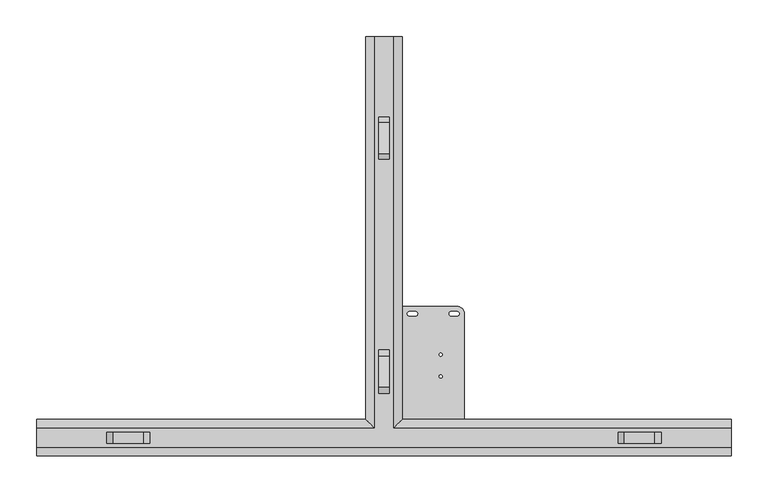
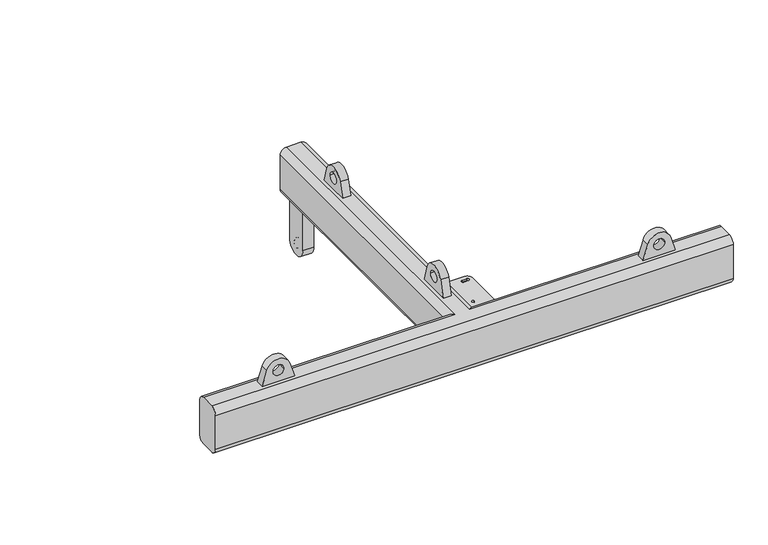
"""IFC4 building model written with IfcOpenShell, lengths in millimetres: proxy geometry, d&b SL-Series KSLi TOP Mounting Frame : KSLi TOP Mounting Frame."""

import ifcopenshell
import ifcopenshell.guid

model = None  # the IFC model being written
_history = None  # IfcOwnerHistory: only IFC2X3 demands one
_inside = {}  # id of a spatial element -> (the spatial element, [elements in it])
_under = {}  # id of a project, library or spatial element -> (it, [spatial elements below it])
_declared = {}  # id of a project -> (the project, [libraries it declares])
_typed = {}  # id of a type object -> (the type object, [elements of that type])
_made_of = {}  # id of a material, layer set ... -> (it, [elements and type objects made of it])


def new_model(schema):
    """Start an empty IFC model of exactly this schema.

    Asked for "IFC4X3", IfcOpenShell would pick the latest addendum, in which some entities
    have other attributes; the version numbers below select the first issue.
    IFC2X3 requires an IfcOwnerHistory on every rooted entity: one is made here for all.
    """
    global model, _history
    if schema == "IFC4X3":
        model = ifcopenshell.file(schema_version=(4, 3, 0, 0))
    else:
        model = ifcopenshell.file(schema=schema)
    _inside.clear()
    _under.clear()
    _declared.clear()
    _typed.clear()
    _made_of.clear()
    _history = None
    if model.schema == "IFC2X3":
        org = make("IfcOrganization", Name="unknown")
        user = make(
            "IfcPersonAndOrganization",
            ThePerson=make("IfcPerson", FamilyName="unknown"),
            TheOrganization=org,
        )
        app = make(
            "IfcApplication",
            ApplicationDeveloper=org,
            Version="unknown",
            ApplicationFullName="unknown",
            ApplicationIdentifier="unknown",
        )
        _history = make(
            "IfcOwnerHistory",
            OwningUser=user,
            OwningApplication=app,
            ChangeAction="ADDED",
            CreationDate=0,
        )
    return model


def make(cls, **values):
    """One entity of the class cls with the attributes given. An attribute that is None is left unset."""
    return model.create_entity(
        cls, **{name: value for name, value in values.items() if value is not None}
    )


def rooted(cls, **values):
    """An entity with a GlobalId (a new one), such as an element, a storey or a relation."""
    return make(cls, GlobalId=ifcopenshell.guid.new(), OwnerHistory=_history, **values)


def si_unit(unit_type, name, prefix=None):
    """IfcSIUnit, for example si_unit("LENGTHUNIT", "METRE", prefix="MILLI")."""
    return make("IfcSIUnit", UnitType=unit_type, Prefix=prefix, Name=name)


def assignment(units):
    """IfcUnitAssignment: the units of a project."""
    return None if units is None else make("IfcUnitAssignment", Units=units)


def point(xyz):
    """IfcCartesianPoint."""
    return None if xyz is None else make("IfcCartesianPoint", Coordinates=xyz)


def direction(xyz):
    """IfcDirection."""
    return None if xyz is None else make("IfcDirection", DirectionRatios=xyz)


def frame(location, z_axis=None, x_axis=None):
    """IfcAxis2Placement3D, a coordinate frame: its origin and axes. An axis left out is left unset."""
    return make(
        "IfcAxis2Placement3D",
        Location=point(location),
        Axis=direction(z_axis),
        RefDirection=direction(x_axis),
    )


def frame_2d(location, x_axis=None):
    """IfcAxis2Placement2D, a coordinate frame in the plane: its origin and x axis."""
    return make(
        "IfcAxis2Placement2D", Location=point(location), RefDirection=direction(x_axis)
    )


def origin():
    """The frame at (0, 0, 0) with its axes left unset."""
    return frame((0.0, 0.0, 0.0))


def place(relative_to, where):
    """IfcLocalPlacement: puts the frame where relative to a parent placement (None: the world)."""
    return make(
        "IfcLocalPlacement", PlacementRelTo=relative_to, RelativePlacement=where
    )


def context(
    kind, dimensions, precision=None, world=None, true_north=None, identifier=None
):
    """IfcGeometricRepresentationContext, for example the 3D "Model" context."""
    return make(
        "IfcGeometricRepresentationContext",
        ContextIdentifier=identifier,
        ContextType=kind,
        CoordinateSpaceDimension=dimensions,
        Precision=precision,
        WorldCoordinateSystem=world,
        TrueNorth=true_north,
    )


def project(units=None, contexts=None):
    """IfcProject with its units and contexts."""
    return rooted(
        "IfcProject",
        Name="project",
        RepresentationContexts=contexts,
        UnitsInContext=assignment(units),
    )


def spatial(cls, under=None, at=None, **own):
    """A site, building, storey or space (cls), placed at a placement, below another one or the project."""
    s = rooted(cls, ObjectPlacement=at, **own)
    if under is not None:
        _under.setdefault(under.id(), (under, []))[1].append(s)
    return s


def polyline(points):
    """IfcPolyline through the points."""
    return make("IfcPolyline", Points=[point(p) for p in points])


def circle_curve(where, radius):
    """IfcCircle in the frame where."""
    return make("IfcCircle", Position=where, Radius=radius)


def ellipse_curve(where, semi_axis1, semi_axis2):
    """IfcEllipse in the frame where."""
    return make(
        "IfcEllipse", Position=where, SemiAxis1=semi_axis1, SemiAxis2=semi_axis2
    )


def trimmed(basis, trim1, trim2, sense, master):
    """IfcTrimmedCurve: the piece of a basis curve between two trims."""
    return make(
        "IfcTrimmedCurve",
        BasisCurve=basis,
        Trim1=trim1,
        Trim2=trim2,
        SenseAgreement=sense,
        MasterRepresentation=master,
    )


def segment(curve, same_sense, transition):
    """IfcCompositeCurveSegment."""
    return make(
        "IfcCompositeCurveSegment",
        Transition=transition,
        SameSense=same_sense,
        ParentCurve=curve,
    )


def composite_curve(segments, self_intersect=None):
    """IfcCompositeCurve: segments joined end to end."""
    return make("IfcCompositeCurve", Segments=segments, SelfIntersect=self_intersect)


def outline(outer, holes=None, kind="AREA"):
    """IfcArbitraryClosedProfileDef: a profile drawn as a closed curve; with holes, ...WithVoids."""
    if holes is None:
        return make("IfcArbitraryClosedProfileDef", ProfileType=kind, OuterCurve=outer)
    return make(
        "IfcArbitraryProfileDefWithVoids",
        ProfileType=kind,
        OuterCurve=outer,
        InnerCurves=holes,
    )


def extrude(swept, where, along, depth):
    """IfcExtrudedAreaSolid: the profile swept, set in the frame where, extruded along a direction by depth."""
    return make(
        "IfcExtrudedAreaSolid",
        SweptArea=swept,
        Position=where,
        ExtrudedDirection=direction(along),
        Depth=depth,
    )


def shape(context_of_items, identifier, shape_type, items):
    """IfcShapeRepresentation: the items that make up one representation, for example the "Body"."""
    return make(
        "IfcShapeRepresentation",
        ContextOfItems=context_of_items,
        RepresentationIdentifier=identifier,
        RepresentationType=shape_type,
        Items=items,
    )


def source(mapping_origin, context_of_items, identifier, shape_type, items):
    """IfcRepresentationMap: a shape defined once, which mapped items show again and again."""
    return make(
        "IfcRepresentationMap",
        MappingOrigin=mapping_origin,
        MappedRepresentation=shape(context_of_items, identifier, shape_type, items),
    )


def transform(
    local_origin,
    x_axis=None,
    y_axis=None,
    z_axis=None,
    scale=None,
    scale2=None,
    scale3=None,
    uniform=True,
):
    """IfcCartesianTransformationOperator3D, or its non-uniform kind. x_axis, y_axis, z_axis: its Axis1, 2, 3."""
    if uniform:
        return make(
            "IfcCartesianTransformationOperator3D",
            Axis1=direction(x_axis),
            Axis2=direction(y_axis),
            LocalOrigin=point(local_origin),
            Scale=scale,
            Axis3=direction(z_axis),
        )
    return make(
        "IfcCartesianTransformationOperator3DnonUniform",
        Axis1=direction(x_axis),
        Axis2=direction(y_axis),
        LocalOrigin=point(local_origin),
        Scale=scale,
        Axis3=direction(z_axis),
        Scale2=scale2,
        Scale3=scale3,
    )


def mapped(mapping_source, mapping_target):
    """IfcMappedItem: shows the shape of a source again, moved by a transform."""
    return make(
        "IfcMappedItem", MappingSource=mapping_source, MappingTarget=mapping_target
    )


def made_of(thing, what):
    """Note that an element or type object is made of a material, layer set ...; save() writes the relation."""
    if what is not None:
        _made_of.setdefault(what.id(), (what, []))[1].append(thing)
    return thing


def element(
    cls,
    number,
    at=None,
    inside=None,
    cuts=None,
    type_object=None,
    material=None,
    context=None,
    identifier="Body",
    shape_type=None,
    held_by="IfcProductDefinitionShape",
    body=None,
    shapes=None,
    **own,
):
    """One element of the class cls, such as IfcWall. Its Tag is "e" and its number.

    at: its placement. inside: the storey or other place that contains it. cuts: it is an
    opening in that element (IfcRelVoidsElement). A single representation is given by context,
    identifier, shape_type and body (its items); several are given by shapes. held_by: the class
    of the entity that holds the representations. save() writes the other relations.
    """
    e = rooted(cls, Tag="e%d" % number, ObjectPlacement=at, **own)
    if body is not None:
        shapes = [shape(context, identifier, shape_type, body)]
    if shapes is not None:
        e.Representation = make(held_by, Representations=shapes)
    if inside is not None:
        _inside.setdefault(inside.id(), (inside, []))[1].append(e)
    if cuts is not None:
        rooted(
            "IfcRelVoidsElement", RelatingBuildingElement=cuts, RelatedOpeningElement=e
        )
    if type_object is not None:
        _typed.setdefault(type_object.id(), (type_object, []))[1].append(e)
    return made_of(e, material)


def aggregate(whole, parts):
    """IfcRelAggregates: a whole, such as a stair, and the parts it consists of."""
    return rooted("IfcRelAggregates", RelatingObject=whole, RelatedObjects=parts)


def save(model, path):
    """Write the relations noted so far, then the file.

    IfcRelAggregates (storeys below a building ...), IfcRelContainedInSpatialStructure (elements
    in a storey), IfcRelDefinesByType, IfcRelAssociatesMaterial and IfcRelDeclares: one each for
    every whole, place, type object, material and project.
    """
    for whole, parts in _under.values():
        aggregate(whole, parts)
    for where, things in _inside.values():
        rooted(
            "IfcRelContainedInSpatialStructure",
            RelatedElements=things,
            RelatingStructure=where,
        )
    for kind, things in _typed.values():
        rooted("IfcRelDefinesByType", RelatedObjects=things, RelatingType=kind)
    for what, things in _made_of.values():
        rooted("IfcRelAssociatesMaterial", RelatedObjects=things, RelatingMaterial=what)
    for by, libraries in _declared.values():
        rooted("IfcRelDeclares", RelatingContext=by, RelatedDefinitions=libraries)
    model.write(path)


def plane_surface(at):
    """IfcPlane: the flat surface through the origin of the frame at, square to its z axis."""
    return make("IfcPlane", Position=at)


def cylinder_surface(at, radius):
    """IfcCylindricalSurface: all points at the distance radius from the z axis of the frame at."""
    return make("IfcCylindricalSurface", Position=at, Radius=radius)


def advanced_brep(points, edges, surfaces, faces):
    """IfcAdvancedBrep: a solid bounded by faces that lie on surfaces and meet in shared edges.

    An edge is (start, end): straight between two places in points (the first is 0);
    or (start, end, curve); or (start, end, curve, False) where it runs against its curve.
    A face is (place in surfaces, loops), or (place, loops, False) where it looks against
    its surface's normal. A loop lists edges by number (the first is 1), with a minus sign
    where the edge is run from its end to its start. The first loop is the outer one.
    """
    corners = [point(p) for p in points]
    vertices = [make("IfcVertexPoint", VertexGeometry=c) for c in corners]
    made = []
    for start, end, *more in edges:
        made.append(
            make(
                "IfcEdgeCurve",
                EdgeStart=vertices[start],
                EdgeEnd=vertices[end],
                EdgeGeometry=more[0] if more else make("IfcPolyline", Points=[corners[start], corners[end]]),
                SameSense=more[1] if len(more) > 1 else True,
            )
        )
    hull = []
    for where, loops, *sense in faces:
        bounds = []
        for j, loop in enumerate(loops):
            ring = [make("IfcOrientedEdge", EdgeElement=made[abs(k) - 1], Orientation=k > 0) for k in loop]
            bounds.append(
                make(
                    "IfcFaceOuterBound" if j == 0 else "IfcFaceBound",
                    Bound=make("IfcEdgeLoop", EdgeList=ring),
                    Orientation=True,
                )
            )
        hull.append(make("IfcAdvancedFace", Bounds=bounds, FaceSurface=surfaces[where], SameSense=sense[0] if sense else True))
    return make("IfcAdvancedBrep", Outer=make("IfcClosedShell", CfsFaces=hull))


def communication_devices_52280cd8(model_context):
    return source(origin(), model_context, "Body", "SolidModel", [
        advanced_brep(
        [(475.75, -2.8125, 9.0), (475.75, 9.1875, -3.0), (475.75, 35.1875, -3.0), (475.75, 47.1875, 9.0), (475.75, 47.1875, 75.0), (475.75, 35.1875, 87.0), (475.75, 9.1875, 87.0), (475.75, -2.8125, 75.0), (-475.75, -2.8125, 9.0), (-475.75, -2.8125, 75.0), (-475.75, 9.1875, 87.0), (-475.75, 35.1875, 87.0), (-475.75, 47.1875, 75.0), (-475.75, 47.1875, 9.0), (-475.75, 35.1875, -3.0), (-475.75, 9.1875, -3.0), (-13.0, 35.1875, -3.0), (-13.0, 572.1875, -3.0), (13.0, 572.1875, -3.0), (13.0, 35.1875, -3.0), (25.0, 47.1875, 9.0), (25.0, 47.1875, 75.0), (-25.0, 47.1875, 75.0), (-25.0, 47.1875, 9.0), (13.0, 35.1875, 87.0), (13.0, 572.1875, 87.0), (-13.0, 572.1875, 87.0), (-13.0, 35.1875, 87.0), (-25.0, 572.1875, 9.0), (-25.0, 572.1875, 75.0), (25.0, 572.1875, 75.0), (25.0, 572.1875, 9.0)],
        [
            (0, 1, circle_curve(frame((475.75, 9.1875, 9.0), z_axis=(1.0, 0.0, 0.0), x_axis=(0.0, -1.0, 0.0)), 12.0)),
            (1, 2),
            (2, 3, circle_curve(frame((475.75, 35.1875, 9.0), z_axis=(1.0, 0.0, 0.0), x_axis=(0.0, -1.0, 0.0)), 12.0)),
            (3, 4),
            (4, 5, circle_curve(frame((475.75, 35.1875, 75.0), z_axis=(1.0, 0.0, 0.0), x_axis=(0.0, -1.0, 0.0)), 12.0)),
            (5, 6),
            (6, 7, circle_curve(frame((475.75, 9.1875, 75.0), z_axis=(1.0, 0.0, 0.0), x_axis=(0.0, -1.0, 0.0)), 12.0)),
            (7, 0),
            (8, 9),
            (9, 10, circle_curve(frame((-475.75, 9.1875, 75.0), z_axis=(-1.0, 0.0, 0.0), x_axis=(0.0, -1.0, 0.0)), 12.0)),
            (10, 11),
            (11, 12, circle_curve(frame((-475.75, 35.1875, 75.0), z_axis=(-1.0, 0.0, 0.0), x_axis=(0.0, -1.0, 0.0)), 12.0)),
            (12, 13),
            (13, 14, circle_curve(frame((-475.75, 35.1875, 9.0), z_axis=(-1.0, 0.0, 0.0), x_axis=(0.0, -1.0, 0.0)), 12.0)),
            (14, 15),
            (15, 8, circle_curve(frame((-475.75, 9.1875, 9.0), z_axis=(-1.0, 0.0, 0.0), x_axis=(0.0, -1.0, 0.0)), 12.0)),
            (1, 15),
            (14, 16),
            (16, 17),
            (17, 18),
            (18, 19),
            (19, 2),
            (3, 20),
            (20, 21),
            (21, 4),
            (12, 22),
            (22, 23),
            (23, 13),
            (5, 24),
            (24, 25),
            (25, 26),
            (26, 27),
            (27, 11),
            (10, 6),
            (7, 9),
            (8, 0),
            (19, 20, ellipse_curve(frame((13.0, 35.1875, 9.0), z_axis=(0.7071067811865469, -0.7071067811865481, 0.0), x_axis=(0.7071067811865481, 0.7071067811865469, 0.0)), 16.9705627, 12.0)),
            (23, 16, ellipse_curve(frame((-13.0, 35.1875, 9.0), z_axis=(-0.7071067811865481, -0.7071067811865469, 0.0), x_axis=(0.7071067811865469, -0.7071067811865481, 0.0)), 16.9705627, 12.0)),
            (21, 24, ellipse_curve(frame((13.0, 35.1875, 75.0), z_axis=(0.7071067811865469, -0.7071067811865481, 0.0), x_axis=(0.7071067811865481, 0.7071067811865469, 0.0)), 16.9705627, 12.0)),
            (27, 22, ellipse_curve(frame((-13.0, 35.1875, 75.0), z_axis=(-0.7071067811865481, -0.7071067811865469, 0.0), x_axis=(0.7071067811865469, -0.7071067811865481, 0.0)), 16.9705627, 12.0)),
            (28, 29),
            (29, 26, circle_curve(frame((-13.0, 572.1875, 75.0), z_axis=(0.0, 1.0, 0.0), x_axis=(1.0, 0.0, 0.0)), 12.0)),
            (25, 30, circle_curve(frame((13.0, 572.1875, 75.0), z_axis=(0.0, 1.0, 0.0), x_axis=(1.0, 0.0, 0.0)), 12.0)),
            (30, 31),
            (31, 18, circle_curve(frame((13.0, 572.1875, 9.0), z_axis=(0.0, 1.0, 0.0), x_axis=(1.0, 0.0, 0.0)), 12.0)),
            (17, 28, circle_curve(frame((-13.0, 572.1875, 9.0), z_axis=(0.0, 1.0, 0.0), x_axis=(1.0, 0.0, 0.0)), 12.0)),
            (30, 21),
            (20, 31),
            (28, 23),
            (22, 29),
        ],
        [
            plane_surface(frame((475.75, -2.8125, 9.0), z_axis=(1.0, 0.0, 0.0), x_axis=(0.0, 0.0, -1.0))),
            plane_surface(frame((-475.75, -2.8125, 9.0), z_axis=(-1.0, 0.0, 0.0), x_axis=(0.0, 0.0, 1.0))),
            plane_surface(frame((475.75, 9.1875, -3.0), z_axis=(0.0, 0.0, -1.0), x_axis=(-1.0, 0.0, 0.0))),
            plane_surface(frame((475.75, 47.1875, 9.0), z_axis=(0.0, 1.0, 0.0), x_axis=(-1.0, 0.0, 0.0))),
            plane_surface(frame((475.75, 35.1875, 87.0), z_axis=(0.0, 0.0, 1.0), x_axis=(-1.0, 0.0, 0.0))),
            plane_surface(frame((475.75, -2.8125, 75.0), z_axis=(0.0, -1.0, 0.0), x_axis=(-1.0, 0.0, 0.0))),
            cylinder_surface(frame((-475.75, 9.1875, 9.0), z_axis=(1.0, 0.0, 0.0), x_axis=(0.0, -1.0, 0.0)), 12.0),
            cylinder_surface(frame((-475.75, 35.1875, 9.0), z_axis=(1.0, 0.0, 0.0), x_axis=(0.0, -1.0, 0.0)), 12.0),
            cylinder_surface(frame((-475.75, 35.1875, 75.0), z_axis=(1.0, 0.0, 0.0), x_axis=(0.0, -1.0, 0.0)), 12.0),
            cylinder_surface(frame((-475.75, 9.1875, 75.0), z_axis=(1.0, 0.0, 0.0), x_axis=(0.0, -1.0, 0.0)), 12.0),
            plane_surface(frame((-1.0, 572.1875, 9.0), z_axis=(0.0, 1.0, 0.0), x_axis=(0.0, 0.0, -1.0))),
            plane_surface(frame((25.0, 29.6875, 9.0), z_axis=(1.0, 0.0, 0.0), x_axis=(0.0, 1.0, 0.0))),
            plane_surface(frame((-25.0, 29.6875, 75.0), z_axis=(-1.0, 0.0, 0.0), x_axis=(0.0, 1.0, 0.0))),
            cylinder_surface(frame((-13.0, 572.1875, 9.0), z_axis=(0.0, -1.0, 0.0), x_axis=(1.0, 0.0, 0.0)), 12.0),
            cylinder_surface(frame((13.0, 572.1875, 9.0), z_axis=(0.0, -1.0, 0.0), x_axis=(1.0, 0.0, 0.0)), 12.0),
            cylinder_surface(frame((13.0, 572.1875, 75.0), z_axis=(0.0, -1.0, 0.0), x_axis=(1.0, 0.0, 0.0)), 12.0),
            cylinder_surface(frame((-13.0, 572.1875, 75.0), z_axis=(0.0, -1.0, 0.0), x_axis=(1.0, 0.0, 0.0)), 12.0),
        ],
        [
            (0, [[1, 2, 3, 4, 5, 6, 7, 8]]),
            (1, [[9, 10, 11, 12, 13, 14, 15, 16]]),
            (2, [[-2, 17, -15, 18, 19, 20, 21, 22]]),
            (3, [[-4, 23, 24, 25]]),
            (3, [[-13, 26, 27, 28]]),
            (4, [[-6, 29, 30, 31, 32, 33, -11, 34]]),
            (5, [[-8, 35, -9, 36]]),
            (6, [[-1, -36, -16, -17]]),
            (7, [[-3, -22, 37, -23]]),
            (7, [[-14, -28, 38, -18]]),
            (8, [[-5, -25, 39, -29]]),
            (8, [[-12, -33, 40, -26]]),
            (9, [[-7, -34, -10, -35]]),
            (10, [[41, 42, -31, 43, 44, 45, -20, 46]]),
            (11, [[-44, 47, -24, 48]]),
            (12, [[-41, 49, -27, 50]]),
            (13, [[-46, -19, -38, -49]]),
            (14, [[-45, -48, -37, -21]]),
            (15, [[-43, -30, -39, -47]]),
            (16, [[-42, -50, -40, -32]]),
        ],
    ),
        extrude(outline(composite_curve([segment(polyline([(110.0, 192.1875), (110.0, 47.1875), (25.0, 47.1875), (25.0, 202.1875), (100.0, 202.1875)]), True, "CONTINUOUS"), segment(trimmed(circle_curve(frame_2d((100.0, 192.1875)), 10.0), [point((100.0, 202.1875))], [point((110.0, 192.1875))], False, "CARTESIAN"), True, "CONTINUOUS")], self_intersect=False), holes=[composite_curve([segment(trimmed(circle_curve(frame_2d((92.0, 192.1875)), 3.0), [point((92.0, 195.1875))], [point((92.0, 189.1875))], True, "CARTESIAN"), True, "CONTINUOUS"), segment(polyline([(92.0, 189.1875), (100.0, 189.1875)]), True, "CONTINUOUS"), segment(trimmed(circle_curve(frame_2d((100.0, 192.1875)), 3.0), [point((100.0, 189.1875))], [point((100.0, 195.1875))], True, "CARTESIAN"), True, "CONTINUOUS"), segment(polyline([(100.0, 195.1875), (92.0, 195.1875)]), True, "CONTINUOUS")], self_intersect=False), composite_curve([segment(trimmed(circle_curve(frame_2d((35.0, 192.1875)), 3.0), [point((35.0, 195.1875))], [point((35.0, 189.1875))], True, "CARTESIAN"), True, "CONTINUOUS"), segment(polyline([(35.0, 189.1875), (43.0, 189.1875)]), True, "CONTINUOUS"), segment(trimmed(circle_curve(frame_2d((43.0, 192.1875)), 3.0), [point((43.0, 189.1875))], [point((43.0, 195.1875))], True, "CARTESIAN"), True, "CONTINUOUS"), segment(polyline([(43.0, 195.1875), (35.0, 195.1875)]), True, "CONTINUOUS")], self_intersect=False), composite_curve([segment(trimmed(circle_curve(frame_2d((77.5620806, 136.1792132)), 2.1161299), [point((75.4459507, 136.1792132))], [point((79.6782105, 136.1792132))], True, "CARTESIAN"), True, "CONTINUOUS"), segment(trimmed(circle_curve(frame_2d((77.5620806, 136.1792132)), 2.1161299), [point((79.6782105, 136.1792132))], [point((75.4459507, 136.1792132))], True, "CARTESIAN"), True, "CONTINUOUS")], self_intersect=False), composite_curve([segment(trimmed(circle_curve(frame_2d((77.5620806, 106.1792132)), 2.1161299), [point((75.4459507, 106.1792132))], [point((79.6782105, 106.1792132))], True, "CARTESIAN"), True, "CONTINUOUS"), segment(trimmed(circle_curve(frame_2d((77.5620806, 106.1792132)), 2.1161299), [point((79.6782105, 106.1792132))], [point((75.4459507, 106.1792132))], True, "CARTESIAN"), True, "CONTINUOUS")], self_intersect=False)]), frame((0.0, 0.0, 16.5), z_axis=(0.0, 0.0, 1.0), x_axis=(1.0, 0.0, 0.0)), (0.0, 0.0, 1.0), 3.0),
        extrude(outline(composite_curve([segment(trimmed(circle_curve(frame_2d((546.5397304, -87.3627634)), 21.0000314), [point((567.5397618, -87.3627634))], [point((525.539699, -87.3627634))], False, "CARTESIAN"), True, "CONTINUOUS"), segment(polyline([(525.539699, -87.3627634), (525.539699, -3.0), (567.5397618, -3.0), (567.5397618, -87.3627634)]), True, "CONTINUOUS")], self_intersect=False)), frame((-10.0, 0.0, 0.0), z_axis=(1.0, 0.0, 0.0), x_axis=(0.0, 1.0, 0.0)), (0.0, 0.0, 1.0), 20.0),
        extrude(outline(composite_curve([segment(trimmed(circle_curve(frame_2d((546.5397304, -87.3627634)), 21.0000314), [point((567.5397618, -87.3627634))], [point((525.539699, -87.3627634))], False, "CARTESIAN"), True, "CONTINUOUS"), segment(polyline([(525.539699, -87.3627634), (525.539699, -3.0), (567.5397618, -3.0), (567.5397618, -87.3627634)]), True, "CONTINUOUS")], self_intersect=False), holes=[composite_curve([segment(trimmed(circle_curve(frame_2d((546.5397304, -87.3627634)), 6.730637), [point((553.2703674, -87.3627634))], [point((539.8090934, -87.3627634))], True, "CARTESIAN"), True, "CONTINUOUS"), segment(trimmed(circle_curve(frame_2d((546.5397304, -87.3627634)), 6.730637), [point((539.8090934, -87.3627634))], [point((553.2703674, -87.3627634))], True, "CARTESIAN"), True, "CONTINUOUS")], self_intersect=False), composite_curve([segment(polyline([(551.6812323, -68.9762245), (551.6812323, -67.0018627)]), True, "CONTINUOUS"), segment(trimmed(circle_curve(frame_2d((546.5397304, -67.0018627)), 5.141502), [point((551.6812323, -67.0018627))], [point((541.3982284, -67.0018627))], True, "CARTESIAN"), True, "CONTINUOUS"), segment(polyline([(541.3982284, -67.0018627), (541.3982284, -68.9762245)]), True, "CONTINUOUS"), segment(trimmed(circle_curve(frame_2d((546.5397304, -68.9762245)), 5.141502), [point((541.3982284, -68.9762245))], [point((551.6812323, -68.9762245))], True, "CARTESIAN"), True, "CONTINUOUS")], self_intersect=False)]), frame((-10.0, 0.0, 0.0), z_axis=(1.0, 0.0, 0.0), x_axis=(0.0, 1.0, 0.0)), (0.0, 0.0, 1.0), 20.0),
        extrude(outline(composite_curve([segment(polyline([(87.0, -379.9623188), (87.0, -320.0376812), (115.5875552, -329.0094279)]), True, "CONTINUOUS"), segment(trimmed(circle_curve(frame_2d((109.0, -350.0)), 22.0), [point((115.5875552, -329.0094279))], [point((115.5875552, -370.9905721))], False, "CARTESIAN"), True, "CONTINUOUS"), segment(polyline([(115.5875552, -370.9905721), (87.0, -379.9623188)]), True, "CONTINUOUS")], self_intersect=False), holes=[composite_curve([segment(trimmed(circle_curve(frame_2d((109.0, -350.0)), 10.0), [point((109.0, -360.0))], [point((109.0, -340.0))], True, "CARTESIAN"), True, "CONTINUOUS"), segment(trimmed(circle_curve(frame_2d((109.0, -350.0)), 10.0), [point((109.0, -340.0))], [point((109.0, -360.0))], True, "CARTESIAN"), True, "CONTINUOUS")], self_intersect=False)]), frame((0.0, 14.6875, 0.0), z_axis=(0.0, 1.0, 0.0), x_axis=(0.0, 0.0, 1.0)), (0.0, 0.0, 1.0), 15.0),
        extrude(outline(composite_curve([segment(polyline([(87.0, 379.9623188), (115.5875552, 370.9905721)]), True, "CONTINUOUS"), segment(trimmed(circle_curve(frame_2d((109.0, 350.0)), 22.0), [point((115.5875552, 370.9905721))], [point((115.5875552, 329.0094279))], False, "CARTESIAN"), True, "CONTINUOUS"), segment(polyline([(115.5875552, 329.0094279), (87.0, 320.0376812), (87.0, 379.9623188)]), True, "CONTINUOUS")], self_intersect=False), holes=[composite_curve([segment(trimmed(circle_curve(frame_2d((109.0, 350.0)), 10.0), [point((109.0, 360.0))], [point((109.0, 340.0))], True, "CARTESIAN"), True, "CONTINUOUS"), segment(trimmed(circle_curve(frame_2d((109.0, 350.0)), 10.0), [point((109.0, 340.0))], [point((109.0, 360.0))], True, "CARTESIAN"), True, "CONTINUOUS")], self_intersect=False)]), frame((0.0, 14.6875, 0.0), z_axis=(0.0, 1.0, 0.0), x_axis=(0.0, 0.0, 1.0)), (0.0, 0.0, 1.0), 15.0),
        extrude(outline(composite_curve([segment(polyline([(134.084619, 118.0662474), (142.9962605, 87.0), (82.8787395, 87.0), (91.790381, 118.0662474)]), True, "CONTINUOUS"), segment(trimmed(circle_curve(frame_2d((112.9375, 112.0)), 22.0), [point((91.790381, 118.0662474))], [point((134.084619, 118.0662474))], False, "CARTESIAN"), True, "CONTINUOUS")], self_intersect=False), holes=[composite_curve([segment(trimmed(circle_curve(frame_2d((112.9375, 111.9870328)), 10.0), [point((122.9375, 111.9870328))], [point((102.9375, 111.9870328))], True, "CARTESIAN"), True, "CONTINUOUS"), segment(trimmed(circle_curve(frame_2d((112.9375, 111.9870328)), 10.0), [point((102.9375, 111.9870328))], [point((122.9375, 111.9870328))], True, "CARTESIAN"), True, "CONTINUOUS")], self_intersect=False)]), frame((-7.5, 0.0, 0.0), z_axis=(1.0, 0.0, 0.0), x_axis=(0.0, 1.0, 0.0)), (0.0, 0.0, 1.0), 15.0),
        extrude(outline(composite_curve([segment(polyline([(453.9881774, 114.9412474), (462.0033836, 87.0), (403.6787331, 87.0), (411.6939393, 114.9412474)]), True, "CONTINUOUS"), segment(trimmed(circle_curve(frame_2d((432.8410584, 108.875)), 22.0), [point((411.6939393, 114.9412474))], [point((453.9881774, 114.9412474))], False, "CARTESIAN"), True, "CONTINUOUS")], self_intersect=False), holes=[composite_curve([segment(trimmed(circle_curve(frame_2d((432.8410584, 108.8620328)), 10.0), [point((442.8410584, 108.8620328))], [point((422.8410584, 108.8620328))], True, "CARTESIAN"), True, "CONTINUOUS"), segment(trimmed(circle_curve(frame_2d((432.8410584, 108.8620328)), 10.0), [point((422.8410584, 108.8620328))], [point((442.8410584, 108.8620328))], True, "CARTESIAN"), True, "CONTINUOUS")], self_intersect=False)]), frame((-7.5, 0.0, 0.0), z_axis=(1.0, 0.0, 0.0), x_axis=(0.0, 1.0, 0.0)), (0.0, 0.0, 1.0), 15.0),
    ])


if __name__ == "__main__":
    model = new_model("IFC4")
    model_context = context("Model", 3, world=origin())
    ifc_project = project(units=[si_unit("LENGTHUNIT", "METRE", prefix="MILLI")], contexts=[model_context])
    site = spatial("IfcSite", under=ifc_project)
    building = spatial("IfcBuilding", under=site)
    placement = place(None, origin())
    communication_devices_shape = communication_devices_52280cd8(model_context)
    element("IfcBuildingElementProxy", 1, Name="d&b SL-Series KSLi TOP Mounting Frame : KSLi TOP Mounting Frame", ObjectType="d&b SL-Series KSLi TOP Mounting Frame : KSLi TOP Mounting Frame", at=placement, inside=building, context=model_context, shape_type="MappedRepresentation", body=[
        mapped(communication_devices_shape, transform((0.0, 0.0, 0.0), x_axis=(1.0, 0.0, 0.0), y_axis=(0.0, 1.0, 0.0), z_axis=(0.0, 0.0, 1.0))),
    ])
    save(model, "model.ifc")
